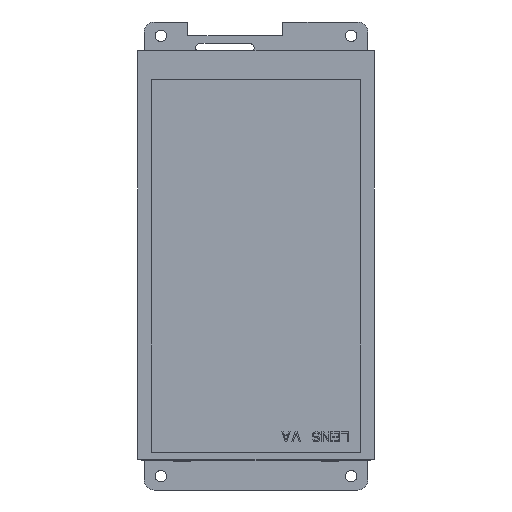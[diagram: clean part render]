
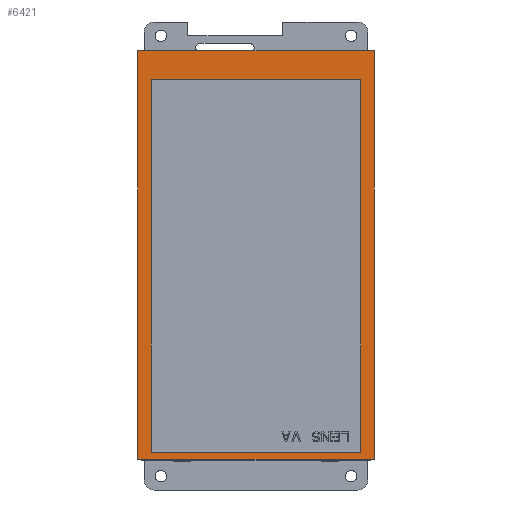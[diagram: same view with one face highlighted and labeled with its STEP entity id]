
A CAD part, front view. The second image highlights one B-rep face of the part: STEP entity #6421.
In plain terms, the highlighted planar face has unit normal (0, -1, 0) as drawn and (0, 1, 0) by its records, which use the part's own axes.
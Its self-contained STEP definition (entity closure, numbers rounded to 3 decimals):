
#4632=DIRECTION('',(0.,0.,1.));
#4633=VECTOR('',#4632,69.9);
#4634=CARTESIAN_POINT('',(-60.35,1.775,-34.95));
#4635=LINE('',#4634,#4633);
#4636=DIRECTION('',(-1.,0.,0.));
#4637=VECTOR('',#4636,120.7);
#4638=CARTESIAN_POINT('',(60.35,1.775,-34.95));
#4639=LINE('',#4638,#4637);
#4640=DIRECTION('',(0.,0.,-1.));
#4641=VECTOR('',#4640,69.9);
#4642=CARTESIAN_POINT('',(60.35,1.775,34.95));
#4643=LINE('',#4642,#4641);
#4644=DIRECTION('',(1.,0.,0.));
#4645=VECTOR('',#4644,120.7);
#4646=CARTESIAN_POINT('',(-60.35,1.775,34.95));
#4647=LINE('',#4646,#4645);
#4648=DIRECTION('',(0.,0.,1.));
#4649=VECTOR('',#4648,62.03);
#4650=CARTESIAN_POINT('',(-51.82,1.775,-31.01));
#4651=LINE('',#4650,#4649);
#4652=DIRECTION('',(1.,0.,0.));
#4653=VECTOR('',#4652,110.05);
#4654=CARTESIAN_POINT('',(-51.82,1.775,31.02));
#4655=LINE('',#4654,#4653);
#4656=DIRECTION('',(0.,0.,-1.));
#4657=VECTOR('',#4656,62.03);
#4658=CARTESIAN_POINT('',(58.23,1.775,31.02));
#4659=LINE('',#4658,#4657);
#4660=DIRECTION('',(-1.,0.,0.));
#4661=VECTOR('',#4660,110.05);
#4662=CARTESIAN_POINT('',(58.23,1.775,-31.01));
#4663=LINE('',#4662,#4661);
#5904=CARTESIAN_POINT('',(-60.35,1.775,-34.95));
#5905=CARTESIAN_POINT('',(-60.35,1.775,34.95));
#5906=VERTEX_POINT('',#5904);
#5907=VERTEX_POINT('',#5905);
#5908=CARTESIAN_POINT('',(60.35,1.775,34.95));
#5909=VERTEX_POINT('',#5908);
#5910=CARTESIAN_POINT('',(60.35,1.775,-34.95));
#5911=VERTEX_POINT('',#5910);
#6120=CARTESIAN_POINT('',(-51.82,1.775,-31.01));
#6121=CARTESIAN_POINT('',(-51.82,1.775,31.02));
#6122=VERTEX_POINT('',#6120);
#6123=VERTEX_POINT('',#6121);
#6124=CARTESIAN_POINT('',(58.23,1.775,31.02));
#6125=VERTEX_POINT('',#6124);
#6126=CARTESIAN_POINT('',(58.23,1.775,-31.01));
#6127=VERTEX_POINT('',#6126);
#6400=CARTESIAN_POINT('',(0.,1.775,0.));
#6401=DIRECTION('',(0.,1.,0.));
#6402=DIRECTION('',(1.,0.,0.));
#6403=AXIS2_PLACEMENT_3D('',#6400,#6401,#6402);
#6404=PLANE('',#6403);
#6405=ORIENTED_EDGE('',*,*,#6352,.F.);
#6406=ORIENTED_EDGE('',*,*,#6367,.F.);
#6407=ORIENTED_EDGE('',*,*,#6381,.F.);
#6408=ORIENTED_EDGE('',*,*,#6394,.F.);
#6409=EDGE_LOOP('',(#6405,#6406,#6407,#6408));
#6410=FACE_OUTER_BOUND('',#6409,.F.);
#6412=ORIENTED_EDGE('',*,*,#6411,.T.);
#6414=ORIENTED_EDGE('',*,*,#6413,.T.);
#6416=ORIENTED_EDGE('',*,*,#6415,.T.);
#6418=ORIENTED_EDGE('',*,*,#6417,.T.);
#6419=EDGE_LOOP('',(#6412,#6414,#6416,#6418));
#6420=FACE_BOUND('',#6419,.F.);
#6352=EDGE_CURVE('',#5906,#5907,#4635,.T.);
#6367=EDGE_CURVE('',#5911,#5906,#4639,.T.);
#6381=EDGE_CURVE('',#5909,#5911,#4643,.T.);
#6394=EDGE_CURVE('',#5907,#5909,#4647,.T.);
#6411=EDGE_CURVE('',#6122,#6123,#4651,.T.);
#6413=EDGE_CURVE('',#6123,#6125,#4655,.T.);
#6415=EDGE_CURVE('',#6125,#6127,#4659,.T.);
#6417=EDGE_CURVE('',#6127,#6122,#4663,.T.);
#6421=ADVANCED_FACE('',(#6410,#6420),#6404,.T.);
